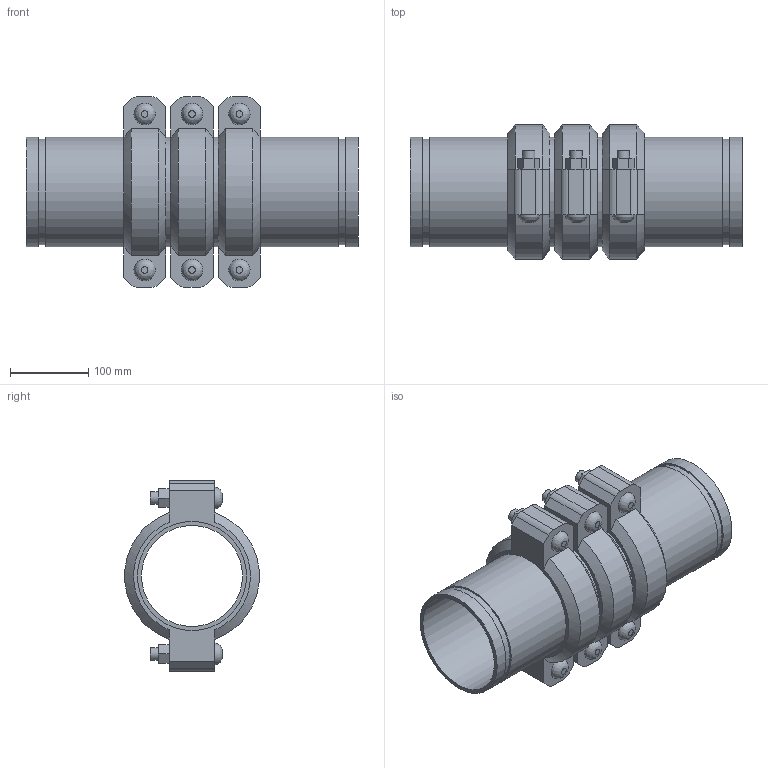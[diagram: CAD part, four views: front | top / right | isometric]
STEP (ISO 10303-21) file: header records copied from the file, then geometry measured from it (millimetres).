
FILE_DESCRIPTION(/* description */ ('VIC EXPANSION JOINT 3 COUPLINGS COMPRESSED STYLE 155 (OGS)','CAx-IF Rec.Pracs.---Representation and Presentation of Product Manufacturing Information (PMI)---4.0---2014-10-13'),/* implementation_level */ '2;1');
FILE_NAME(/* name */ 'C:\Users\kkamble\AppData\Roaming\Autodesk\ApplicationPlugins\Victaulic.Temp\A971\Victaulic_IPS_Expansion Joint_Compressed_3 Couplings_Style 155 (OGS)_05.0 (139.7) (125).stp',/* time_stamp */ '2021-06-27T00:25:42+02:00',/* author */ ('kkamble'),/* organization */ ('Victaulic'),/* preprocessor_version */ 'ST-DEVELOPER v17.2',/* originating_system */ 'Autodesk Inventor 2019',/* authorisation */ '');
FILE_SCHEMA (('AP242_MANAGED_MODEL_BASED_3D_ENGINEERING_MIM_LF { 1 0 10303 442 1 1 4 }'));
Length unit declared in the file: inch
Products named in the file (4): 155-05.0 (139.7); Nipple-05.0 (139.7); Nipple-05.0 (139.7)_1; 075_3_Coup05.0 (139.7)
Assembly tree (7 placements, depth 2):
  155-05.0 (139.7)
    Nipple-05.0 (139.7)  x2
    Nipple-05.0 (139.7)_1  x2
    075_3_Coup05.0 (139.7)  x3
Bounding box: 424.94 x 172.14 x 243.59 mm (x, y, z)
Volume: 2747138.5 mm3; surface area: 684039.6 mm2
Topology: 7 solids, 13 shells, 219 faces, 519 edges, 366 vertices
Faces by surface type: plane 132, cylinder 69, cone 12, bspline 6
Full cylindrical faces by diameter (mm): 15.875 x12, 17.424 x6, 129.388 x4, 133.35 x3, 135.484 x8, 139.7 x18
Entity records: 2778 total; most frequent: CARTESIAN_POINT 491, DIRECTION 457, ORIENTED_EDGE 386, EDGE_CURVE 193, AXIS2_PLACEMENT_3D 182, VERTEX_POINT 138, EDGE_LOOP 107, LINE 93
